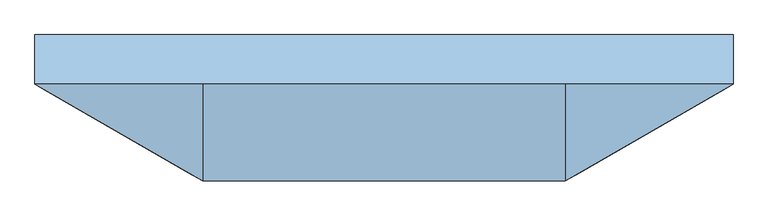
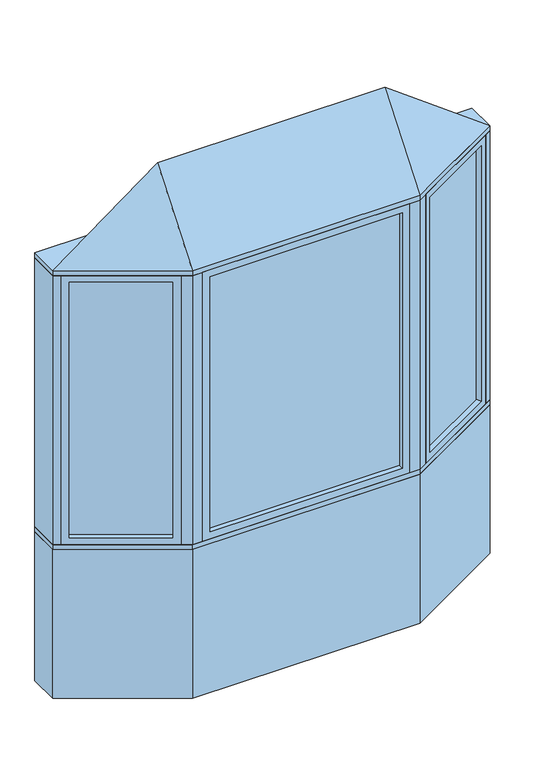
"""IFC4 building model written with IfcOpenShell, lengths in millimetres: window geometry, Pollard_Windows_Tudor Casement Bows and Bays : AML-BAY 30 AFR0614-10-500."""

from ifc_helpers import new_model, si_unit, frame, origin, origin_with_axes, place, context, project, spatial, polyline, outline, extrude, faceted_brep, source, transform, mapped, element, save


def window_671f8447(model_context):
    return source(origin(), model_context, "Body", "SolidModel", [
        extrude(outline(polyline([(1013.112102, -82.0482469), (610.2320119, -314.6511754), (607.6920119, -310.2517664), (1010.572102, -77.6488379), (1013.112102, -82.0482469)])), frame((0.0, 0.0, 823.1628), z_axis=(0.0, 0.0, 1.0), x_axis=(1.0, 0.0, 0.0)), (0.0, 0.0, 1.0), 1353.6704),
        faceted_brep([(1002.1135794, -88.3982469, 835.8628), (1014.8135794, -110.3952922, 835.8628), (1014.8135794, -110.3952922, 2164.1332), (1002.1135794, -88.3982469, 2164.1332), (1010.572102, -77.6488379, 823.1628), (1013.112102, -82.0482469, 823.1628), (1013.112102, -82.0482469, 2176.8332), (1010.572102, -77.6488379, 2176.8332), (986.8735794, -62.0017926, 835.8628), (999.5735794, -83.9988379, 835.8628), (999.5735794, -83.9988379, 2164.1332), (986.8735794, -62.0017926, 2164.1332), (1045.8734073, -92.4628922, 799.998), (1017.9334073, -44.0693926, 799.998), (1017.9334073, -44.0693926, 2199.998), (1045.8734073, -92.4628922, 2199.998), (633.9305346, -330.2982207, 2164.1332), (621.2305346, -308.3011754, 2164.1332), (610.2320119, -314.6511754, 2176.8332), (607.6920119, -310.2517664, 2176.8332), (618.6905346, -303.9017664, 2164.1332), (605.9905346, -281.9047211, 2164.1332), (574.9307067, -299.8371211, 2199.998), (602.8707067, -348.2306207, 2199.998), (633.9305346, -330.2982207, 835.8628), (621.2305346, -308.3011754, 835.8628), (610.2320119, -314.6511754, 823.1628), (607.6920119, -310.2517664, 823.1628), (618.6905346, -303.9017664, 835.8628), (605.9905346, -281.9047211, 835.8628), (574.9307067, -299.8371211, 799.998), (602.8707067, -348.2306207, 799.998)], [[[0, 1, 2, 3]], [[4, 5, 6, 7]], [[8, 9, 10, 11]], [[12, 13, 14, 15]], [[3, 2, 16, 17]], [[7, 6, 18, 19]], [[11, 10, 20, 21]], [[15, 14, 22, 23]], [[17, 16, 24, 25]], [[19, 18, 26, 27]], [[21, 20, 28, 29]], [[23, 22, 30, 31]], [[25, 24, 1, 0]], [[5, 26, 18, 6], [3, 17, 25, 0]], [[27, 26, 5, 4]], [[7, 19, 27, 4], [9, 28, 20, 10]], [[29, 28, 9, 8]], [[13, 30, 22, 14], [11, 21, 29, 8]], [[31, 30, 13, 12]], [[15, 23, 31, 12], [1, 24, 16, 2]]]),
        extrude(outline(polyline([(-610.2320119, -314.6511754), (-1013.112102, -82.0482469), (-1010.572102, -77.6488379), (-607.6920119, -310.2517664), (-610.2320119, -314.6511754)])), frame((0.0, 0.0, 823.1628), z_axis=(0.0, 0.0, 1.0), x_axis=(1.0, 0.0, 0.0)), (0.0, 0.0, 1.0), 1353.6704),
        faceted_brep([(-618.6905346, -303.9017664, 2164.1332), (-605.9905346, -281.9047211, 2164.1332), (-605.9905346, -281.9047211, 835.8628), (-618.6905346, -303.9017664, 835.8628), (-610.2320119, -314.6511754, 2176.8332), (-607.6920119, -310.2517664, 2176.8332), (-607.6920119, -310.2517664, 823.1628), (-610.2320119, -314.6511754, 823.1628), (-633.9305346, -330.2982207, 2164.1332), (-621.2305346, -308.3011754, 2164.1332), (-621.2305346, -308.3011754, 835.8628), (-633.9305346, -330.2982207, 835.8628), (-574.9307067, -299.8371211, 2199.998), (-602.8707067, -348.2306207, 2199.998), (-602.8707067, -348.2306207, 799.998), (-574.9307067, -299.8371211, 799.998), (-986.8735794, -62.0017926, 835.8628), (-999.5735794, -83.9988379, 835.8628), (-1010.572102, -77.6488379, 823.1628), (-1013.112102, -82.0482469, 823.1628), (-1002.1135794, -88.3982469, 835.8628), (-1014.8135794, -110.3952922, 835.8628), (-1045.8734073, -92.4628922, 799.998), (-1017.9334073, -44.0693926, 799.998), (-986.8735794, -62.0017926, 2164.1332), (-999.5735794, -83.9988379, 2164.1332), (-1010.572102, -77.6488379, 2176.8332), (-1013.112102, -82.0482469, 2176.8332), (-1002.1135794, -88.3982469, 2164.1332), (-1014.8135794, -110.3952922, 2164.1332), (-1045.8734073, -92.4628922, 2199.998), (-1017.9334073, -44.0693926, 2199.998)], [[[0, 1, 2, 3]], [[4, 5, 6, 7]], [[8, 9, 10, 11]], [[12, 13, 14, 15]], [[3, 2, 16, 17]], [[7, 6, 18, 19]], [[11, 10, 20, 21]], [[15, 14, 22, 23]], [[17, 16, 24, 25]], [[19, 18, 26, 27]], [[21, 20, 28, 29]], [[23, 22, 30, 31]], [[15, 23, 31, 12], [1, 24, 16, 2]], [[25, 24, 1, 0]], [[5, 26, 18, 6], [3, 17, 25, 0]], [[27, 26, 5, 4]], [[7, 19, 27, 4], [9, 28, 20, 10]], [[29, 28, 9, 8]], [[13, 30, 22, 14], [11, 21, 29, 8]], [[31, 30, 13, 12]]]),
        extrude(outline(polyline([(486.4046365, -347.8306207), (-486.4046365, -347.8306207), (-486.4046365, -342.7506207), (486.4046365, -342.7506207), (486.4046365, -347.8306207)])), frame((0.0, 0.0, 823.1628), z_axis=(0.0, 0.0, 1.0), x_axis=(1.0, 0.0, 0.0)), (0.0, 0.0, 1.0), 1353.6704),
        faceted_brep([(473.7046365, -347.8306207, 835.8628), (473.7046365, -373.2306207, 835.8628), (473.7046365, -373.2306207, 2164.1332), (473.7046365, -347.8306207, 2164.1332), (486.4046365, -342.7506207, 823.1628), (486.4046365, -347.8306207, 823.1628), (486.4046365, -347.8306207, 2176.8332), (486.4046365, -342.7506207, 2176.8332), (473.7046365, -317.3506207, 835.8628), (473.7046365, -342.7506207, 835.8628), (473.7046365, -342.7506207, 2164.1332), (473.7046365, -317.3506207, 2164.1332), (509.5694365, -373.2306207, 799.998), (509.5694365, -317.3506207, 799.998), (509.5694365, -317.3506207, 2199.998), (509.5694365, -373.2306207, 2199.998), (-473.7046365, -373.2306207, 2164.1332), (-473.7046365, -347.8306207, 2164.1332), (-486.4046365, -347.8306207, 2176.8332), (-486.4046365, -342.7506207, 2176.8332), (-473.7046365, -342.7506207, 2164.1332), (-473.7046365, -317.3506207, 2164.1332), (-509.5694365, -317.3506207, 2199.998), (-509.5694365, -373.2306207, 2199.998), (-473.7046365, -373.2306207, 835.8628), (-473.7046365, -347.8306207, 835.8628), (-486.4046365, -347.8306207, 823.1628), (-486.4046365, -342.7506207, 823.1628), (-473.7046365, -342.7506207, 835.8628), (-473.7046365, -317.3506207, 835.8628), (-509.5694365, -317.3506207, 799.998), (-509.5694365, -373.2306207, 799.998)], [[[0, 1, 2, 3]], [[4, 5, 6, 7]], [[8, 9, 10, 11]], [[12, 13, 14, 15]], [[3, 2, 16, 17]], [[7, 6, 18, 19]], [[11, 10, 20, 21]], [[15, 14, 22, 23]], [[17, 16, 24, 25]], [[19, 18, 26, 27]], [[21, 20, 28, 29]], [[23, 22, 30, 31]], [[15, 23, 31, 12], [1, 24, 16, 2]], [[25, 24, 1, 0]], [[5, 26, 18, 6], [3, 17, 25, 0]], [[27, 26, 5, 4]], [[7, 19, 27, 4], [9, 28, 20, 10]], [[29, 28, 9, 8]], [[13, 30, 22, 14], [11, 21, 29, 8]], [[31, 30, 13, 12]]]),
        faceted_brep([(1076.5, -74.7806207, 2225.398), (559.5694365, -373.2306207, 2225.398), (-559.5694365, -373.2306207, 2225.398), (-1076.5, -74.7806207, 2225.398), (-559.5694365, -74.7806207, 2606.398), (559.5694365, -74.7806207, 2606.398)], [[[0, 1, 2, 3]], [[3, 2, 4]], [[2, 1, 5, 4]], [[1, 0, 5]], [[0, 3, 4, 5]]]),
        extrude(outline(polyline([(-1076.5, 77.6193793), (1076.5, 77.6193793), (1076.5, -74.7806207), (559.5694365, -373.2306207), (-559.5694365, -373.2306207), (-1076.5, -74.7806207), (-1076.5, 77.6193793)])), frame((0.0, 0.0, 2199.998), z_axis=(0.0, 0.0, 1.0), x_axis=(1.0, 0.0, 0.0)), (0.0, 0.0, 1.0), 25.4),
        extrude(outline(polyline([(-1076.5, -74.7806207), (-1076.5, 77.6193793), (-1035.6645431, 77.6193793), (-1035.6645431, -74.7806207), (-1045.8734073, -92.4628922), (-1076.5, -74.7806207)])), frame((0.0, 0.0, 799.998), z_axis=(0.0, 0.0, 1.0), x_axis=(1.0, 0.0, 0.0)), (0.0, 0.0, 1.0), 1400.0),
        extrude(outline(polyline([(1076.5, 77.6193793), (1076.5, -74.7806207), (1045.8734073, -92.4628922), (1035.6645431, -74.7806207), (1035.6645431, 77.6193793), (1076.5, 77.6193793)])), frame((0.0, 0.0, 799.998), z_axis=(0.0, 0.0, 1.0), x_axis=(1.0, 0.0, 0.0)), (0.0, 0.0, 1.0), 1400.0),
        extrude(outline(polyline([(559.5694365, -373.2306207), (509.5694365, -373.2306207), (509.5694365, -323.2306207), (546.1719769, -323.2306207), (577.8707067, -304.9293505), (602.8707067, -348.2306207), (559.5694365, -373.2306207)])), frame((0.0, 0.0, 799.998), z_axis=(0.0, 0.0, 1.0), x_axis=(1.0, 0.0, 0.0)), (0.0, 0.0, 1.0), 1400.0),
        extrude(outline(polyline([(-559.5694365, -373.2306207), (-602.8707067, -348.2306207), (-577.8707067, -304.9293505), (-546.1719769, -323.2306207), (-509.5694365, -323.2306207), (-509.5694365, -373.2306207), (-559.5694365, -373.2306207)])), frame((0.0, 0.0, 799.998), z_axis=(0.0, 0.0, 1.0), x_axis=(1.0, 0.0, 0.0)), (0.0, 0.0, 1.0), 1400.0),
        extrude(outline(polyline([(-559.5694365, -373.2306207), (-1076.5, -74.7806207), (-1076.5, 77.6193793), (-1035.6645431, 77.6193793), (-518.7339796, -220.8306207), (518.7339796, -220.8306207), (1035.6645431, 77.6193793), (1076.5, 77.6193793), (1076.5, -74.7806207), (559.5694365, -373.2306207), (-559.5694365, -373.2306207)])), frame((0.0, 0.0, 774.598), z_axis=(0.0, 0.0, 1.0), x_axis=(1.0, 0.0, 0.0)), (0.0, 0.0, 1.0), 25.4),
        extrude(outline(polyline([(-1076.5, -74.7806207), (-1076.5, 77.6193793), (-1035.6645431, 77.6193793), (-518.7339796, -220.8306207), (518.7339796, -220.8306207), (1035.6645431, 77.6193793), (1076.5, 77.6193793), (1076.5, -74.7806207), (559.5694365, -373.2306207), (-559.5694365, -373.2306207), (-1076.5, -74.7806207)])), origin_with_axes(), (0.0, 0.0, 1.0), 774.598),
    ])


if __name__ == "__main__":
    model = new_model("IFC4")
    model_context = context("Model", 3, world=origin())
    ifc_project = project(units=[si_unit("LENGTHUNIT", "METRE", prefix="MILLI")], contexts=[model_context])
    site = spatial("IfcSite", under=ifc_project)
    building = spatial("IfcBuilding", under=site)
    placement = place(None, origin())
    window_shape = window_671f8447(model_context)
    element("IfcWindow", 1, ObjectType="Pollard_Windows_Tudor Casement Bows and Bays : AML-BAY 30 AFR0614-10-500", at=placement, inside=building, context=model_context, shape_type="MappedRepresentation", body=[
        mapped(window_shape, transform((0.0, 0.0, 0.0), x_axis=(1.0, 0.0, 0.0), y_axis=(0.0, 1.0, 0.0), z_axis=(0.0, 0.0, 1.0))),
    ])
    save(model, "model.ifc")
